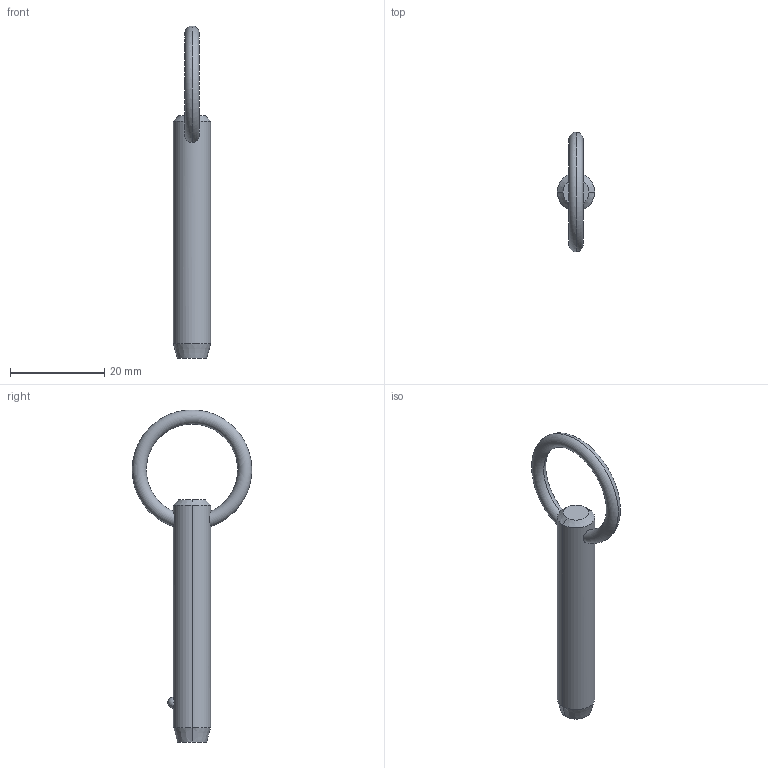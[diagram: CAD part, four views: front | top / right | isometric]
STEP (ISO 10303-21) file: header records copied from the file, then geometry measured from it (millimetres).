
FILE_DESCRIPTION (( 'STEP AP203' ), '1' );
FILE_NAME ('P1250.031-140.step', '2019-07-29T19:49:11', ( '' ), ( '' ), 'SwSTEP 2.0', 'SolidWorks 2017', '' );
FILE_SCHEMA (( 'CONFIG_CONTROL_DESIGN' ));
Length unit declared in the file: millimetre
Products named in the file (1): P1250.031-140
Bounding box: 7.93 x 25.36 x 70.5 mm (x, y, z)
Volume: 2942.6 mm3; surface area: 1917.6 mm2
Topology: 1 solids, 1 shells, 12 faces, 28 edges, 17 vertices
Faces by surface type: cone 4, torus 2, sphere 2, cylinder 2, plane 2
Entity records: 509 total; most frequent: CARTESIAN_POINT 176, DIRECTION 56, ORIENTED_EDGE 48, AXIS2_PLACEMENT_3D 25, EDGE_CURVE 24, VERTEX_POINT 15, EDGE_LOOP 15, FACE_OUTER_BOUND 12
